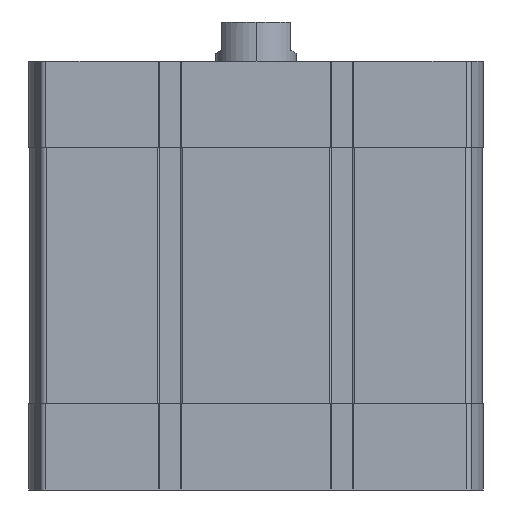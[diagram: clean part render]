
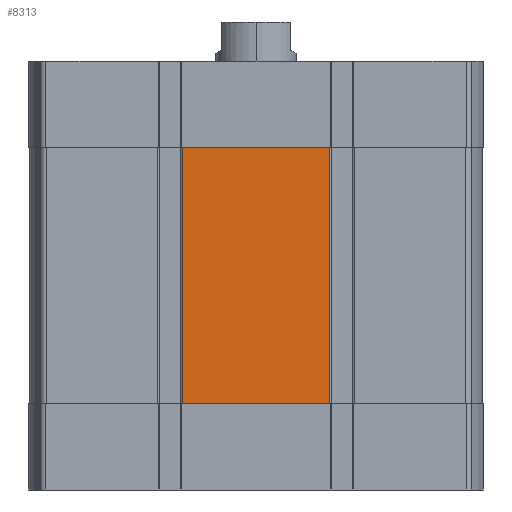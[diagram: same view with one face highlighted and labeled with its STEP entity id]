
A CAD part, left-side view. The second image highlights one B-rep face of the part: STEP entity #8313.
In plain terms, the highlighted planar face has unit normal (-1, 0, 0).
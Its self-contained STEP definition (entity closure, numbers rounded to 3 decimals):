
#548 = CARTESIAN_POINT ( 'NONE',  ( -56.5, -18.345, -21.5 ) ) ;
#885 = VERTEX_POINT ( 'NONE', #16082 ) ;
#927 = CARTESIAN_POINT ( 'NONE',  ( -56.5, 18.345, -85.5 ) ) ;
#4055 = CARTESIAN_POINT ( 'NONE',  ( -56.5, 18.345, -21.5 ) ) ;
#4129 = DIRECTION ( 'NONE',  ( -1., 0., 0. ) ) ;
#4284 = AXIS2_PLACEMENT_3D ( 'NONE', #12046, #4129, #10500 ) ;
#5500 = LINE ( 'NONE', #4055, #10086 ) ;
#5691 = VERTEX_POINT ( 'NONE', #10001 ) ;
#5952 = ORIENTED_EDGE ( 'NONE', *, *, #11685, .T. ) ;
#6039 = VERTEX_POINT ( 'NONE', #11117 ) ;
#7112 = PLANE ( 'NONE',  #4284 ) ;
#8313 = ADVANCED_FACE ( 'NONE', ( #10604 ), #7112, .T. ) ;
#8316 = VECTOR ( 'NONE', #11712, 1000. ) ;
#9591 = VECTOR ( 'NONE', #17302, 1000. ) ;
#9956 = VECTOR ( 'NONE', #16631, 1000. ) ;
#10001 = CARTESIAN_POINT ( 'NONE',  ( -56.5, 18.345, -21.5 ) ) ;
#10086 = VECTOR ( 'NONE', #18034, 1000. ) ;
#10500 = DIRECTION ( 'NONE',  ( 0., 0., 1. ) ) ;
#10562 = LINE ( 'NONE', #13546, #9956 ) ;
#10604 = FACE_OUTER_BOUND ( 'NONE', #14072, .T. ) ;
#11117 = CARTESIAN_POINT ( 'NONE',  ( -56.5, -18.345, -85.5 ) ) ;
#11685 = EDGE_CURVE ( 'NONE', #885, #6039, #19049, .T. ) ;
#11712 = DIRECTION ( 'NONE',  ( 0., 0., 1. ) ) ;
#12046 = CARTESIAN_POINT ( 'NONE',  ( -56.5, 18.345, -85.5 ) ) ;
#13546 = CARTESIAN_POINT ( 'NONE',  ( -56.5, -18.345, -85.5 ) ) ;
#14072 = EDGE_LOOP ( 'NONE', ( #18505, #19797, #5952, #17609 ) ) ;
#14582 = VERTEX_POINT ( 'NONE', #548 ) ;
#15610 = EDGE_CURVE ( 'NONE', #6039, #14582, #10562, .T. ) ;
#15749 = CARTESIAN_POINT ( 'NONE',  ( -56.5, 18.345, -85.5 ) ) ;
#16082 = CARTESIAN_POINT ( 'NONE',  ( -56.5, 18.345, -85.5 ) ) ;
#16631 = DIRECTION ( 'NONE',  ( 0., 0., 1. ) ) ;
#17302 = DIRECTION ( 'NONE',  ( 0., -1., 0. ) ) ;
#17609 = ORIENTED_EDGE ( 'NONE', *, *, #15610, .T. ) ;
#18034 = DIRECTION ( 'NONE',  ( 0., -1., 0. ) ) ;
#18093 = LINE ( 'NONE', #927, #8316 ) ;
#18505 = ORIENTED_EDGE ( 'NONE', *, *, #19579, .F. ) ;
#19049 = LINE ( 'NONE', #15749, #9591 ) ;
#19579 = EDGE_CURVE ( 'NONE', #5691, #14582, #5500, .T. ) ;
#19797 = ORIENTED_EDGE ( 'NONE', *, *, #20338, .F. ) ;
#20338 = EDGE_CURVE ( 'NONE', #885, #5691, #18093, .T. ) ;
